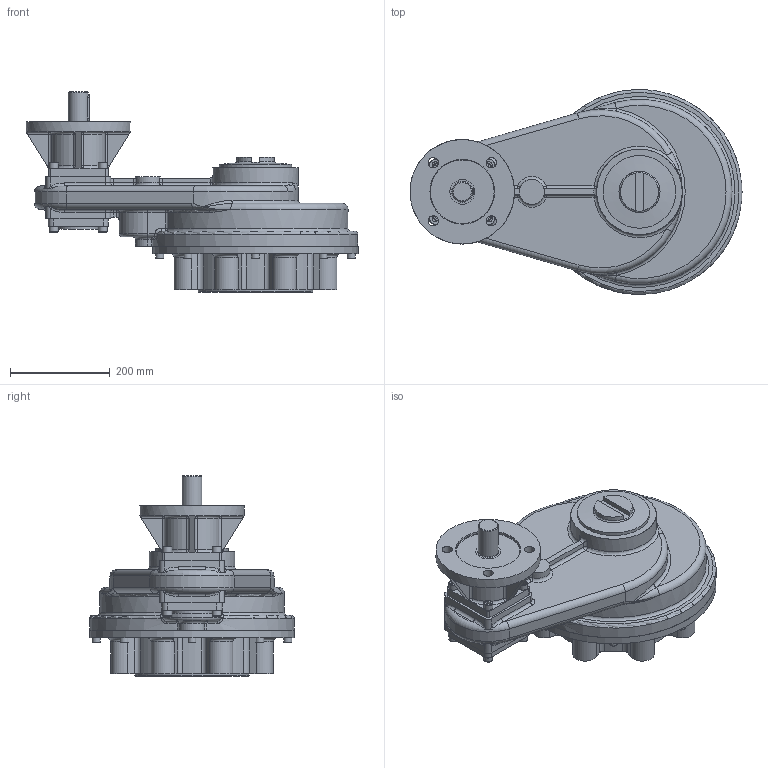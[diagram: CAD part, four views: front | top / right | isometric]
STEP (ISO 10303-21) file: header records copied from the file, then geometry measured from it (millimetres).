
FILE_DESCRIPTION( ( 'Unknown' ), '1' );
FILE_NAME( 'X:/CURRENT/PUB/IS/IS-2011/IS - 3D Models simplified STEP/PUBIS11-F16-F30_simplified.stp', 'Unknown', ( 'Unknown' ), ( 'Unknown' ), 'PSStep 15.0.49', 'Unknown', ' ' );
FILE_SCHEMA( ( 'AUTOMOTIVE_DESIGN { 1 0 10303 214 1 1 1 1 }' ) );
Length unit declared in the file: millimetre
Products named in the file (34): 1; 2; 3; 4; 5; 6; 7; 8; 9; 10; 11; 12; 13; 14; 15; 16; 17; 18; 19; 20; 21; 22; 23; 24; 25; 26; 27; 28; 29; 30; 31; 32; 33; 34
Bounding box: 667.1 x 412 x 402.18 mm (x, y, z)
Surface area: 962401.5 mm2 (no closed solid volume)
Topology: 0 solids, 715 shells, 715 faces, 3374 edges, 3243 vertices
Faces by surface type: plane 242, cylinder 203, bspline 118, torus 87, cone 33, sphere 32
Full cylindrical faces by diameter (mm): 16 x8, 17.294 x8, 18 x8, 20.5 x4, 30 x1, 40 x1, 50 x1, 80 x1, 130 x1, 130.175 x1, 146.05 x1, 172 x1, 210 x1, 229.95 x1, 239.95 x1, 412 x1
Entity records: 66757 total; most frequent: CARTESIAN_POINT 36068, DIRECTION 5383, VERTEX_POINT 3215, ORIENTED_EDGE 3207, EDGE_CURVE 3207, AXIS2_PLACEMENT_3D 2059, CIRCLE 1428, LINE 1265
